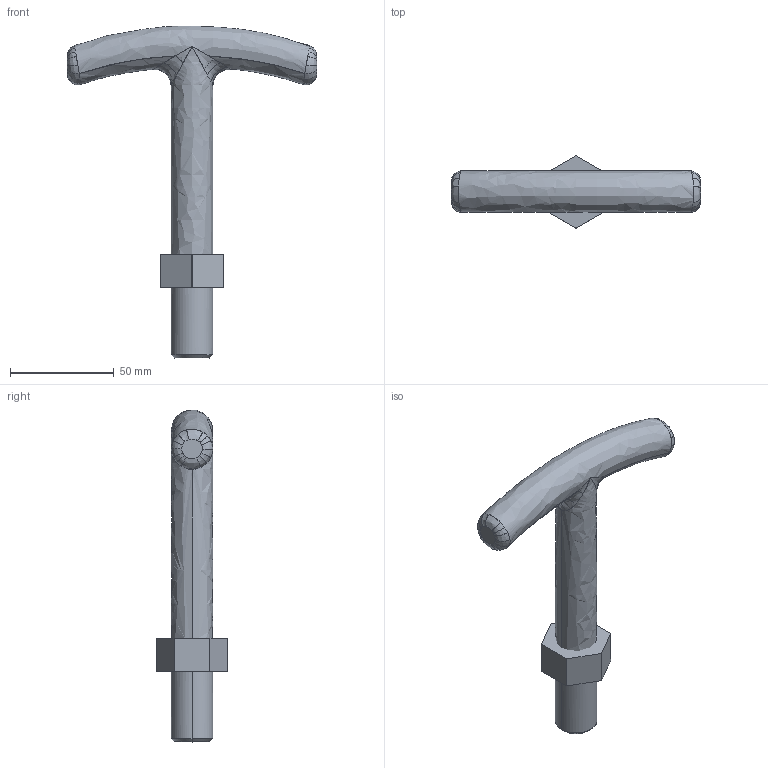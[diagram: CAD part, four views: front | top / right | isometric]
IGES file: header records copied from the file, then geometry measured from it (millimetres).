
Global section: file name: E:\UnigraphicsGraphicData\MISUMI_PRESS-PARTS\IGES\3d_tb20-160_05657_r00.igs; native system: NX V5.0; preprocessor: UGS NX IGES V5.0; author: MISUMI; date: 20110105.163351; units: millimetre
Bounding box: 120 x 34.64 x 159.86 mm (x, y, z)
Surface area: 19956.7 mm2 (no closed solid volume)
Topology: 0 solids, 0 shells, 64 faces, 429 edges, 425 vertices
Faces by surface type: bspline 64
